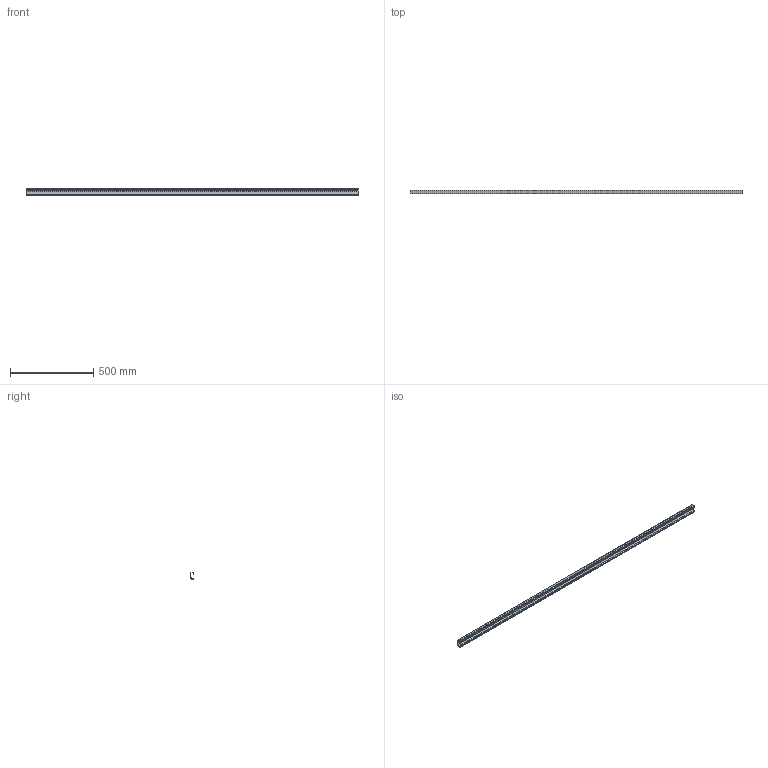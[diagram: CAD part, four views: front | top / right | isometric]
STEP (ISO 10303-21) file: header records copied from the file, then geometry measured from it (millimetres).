
FILE_DESCRIPTION( ( '' ), '1' );
FILE_NAME( 'C:/Documents and Settings/Nikhil/Desktop/Nik/Done/115090.stp', '2013-10-23T08:25:51', ( '' ), ( '' ), ' ', ' ', ' ' );
FILE_SCHEMA( ( 'automotive_design' ) );
Length unit declared in the file: millimetre
Products named in the file (1): 1
Bounding box: 2000 x 22.5 x 47.5 mm (x, y, z)
Volume: 598533.8 mm3; surface area: 391447.8 mm2
Topology: 1 solids, 1 shells, 61 faces, 166 edges, 108 vertices
Faces by surface type: plane 42, cylinder 19
Entity records: 3886 total; most frequent: CARTESIAN_POINT 464, STYLED_ITEM 336, PRESENTATION_STYLE_ASSIGNMENT 336, COLOUR_RGB 336, ORIENTED_EDGE 332, DIRECTION 302, EDGE_CURVE 166, CURVE_STYLE 166
